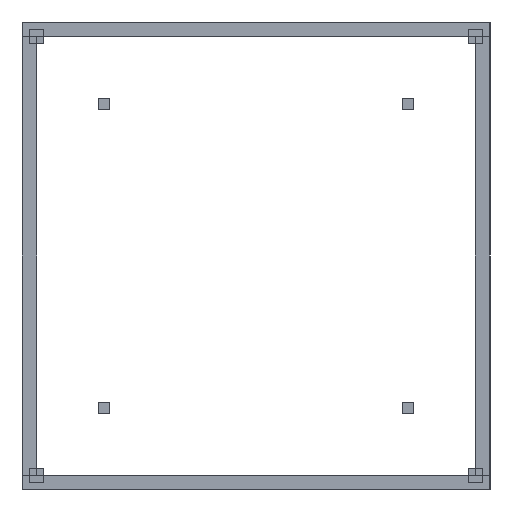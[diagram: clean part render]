
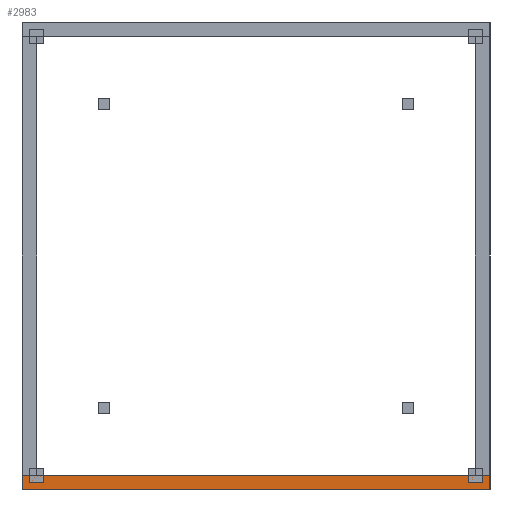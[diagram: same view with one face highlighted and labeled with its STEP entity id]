
A CAD part, left-side view. The second image highlights one B-rep face of the part: STEP entity #2983.
In plain terms, the highlighted planar face has unit normal (-1, 0, 0).
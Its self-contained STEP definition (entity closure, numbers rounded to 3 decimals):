
#2983 = ADVANCED_FACE('',(#2984),#2998,.F.);
#2984 = FACE_BOUND('',#2985,.F.);
#2985 = EDGE_LOOP('',(#2986,#3021,#3049,#3077));
#2986 = ORIENTED_EDGE('',*,*,#2987,.F.);
#2987 = EDGE_CURVE('',#2988,#2990,#2992,.T.);
#2988 = VERTEX_POINT('',#2989);
#2989 = CARTESIAN_POINT('',(-50.,-80.,-80.));
#2990 = VERTEX_POINT('',#2991);
#2991 = CARTESIAN_POINT('',(-50.,-80.,-75.));
#2992 = SURFACE_CURVE('',#2993,(#2997,#3009),.PCURVE_S1.);
#2993 = LINE('',#2994,#2995);
#2994 = CARTESIAN_POINT('',(-50.,-80.,-80.));
#2995 = VECTOR('',#2996,1.);
#2996 = DIRECTION('',(0.,0.,1.));
#2997 = PCURVE('',#2998,#3003);
#2998 = PLANE('',#2999);
#2999 = AXIS2_PLACEMENT_3D('',#3000,#3001,#3002);
#3000 = CARTESIAN_POINT('',(-50.,-80.,-80.));
#3001 = DIRECTION('',(1.,0.,0.));
#3002 = DIRECTION('',(0.,0.,1.));
#3003 = DEFINITIONAL_REPRESENTATION('',(#3004),#3008);
#3004 = LINE('',#3005,#3006);
#3005 = CARTESIAN_POINT('',(0.,0.));
#3006 = VECTOR('',#3007,1.);
#3007 = DIRECTION('',(1.,0.));
#3008 = ( GEOMETRIC_REPRESENTATION_CONTEXT(2) 
PARAMETRIC_REPRESENTATION_CONTEXT() REPRESENTATION_CONTEXT('2D SPACE',''
  ) );
#3009 = PCURVE('',#3010,#3015);
#3010 = PLANE('',#3011);
#3011 = AXIS2_PLACEMENT_3D('',#3012,#3013,#3014);
#3012 = CARTESIAN_POINT('',(-50.,-80.,-80.));
#3013 = DIRECTION('',(0.,1.,0.));
#3014 = DIRECTION('',(0.,0.,1.));
#3015 = DEFINITIONAL_REPRESENTATION('',(#3016),#3020);
#3016 = LINE('',#3017,#3018);
#3017 = CARTESIAN_POINT('',(0.,0.));
#3018 = VECTOR('',#3019,1.);
#3019 = DIRECTION('',(1.,0.));
#3020 = ( GEOMETRIC_REPRESENTATION_CONTEXT(2) 
PARAMETRIC_REPRESENTATION_CONTEXT() REPRESENTATION_CONTEXT('2D SPACE',''
  ) );
#3021 = ORIENTED_EDGE('',*,*,#3022,.T.);
#3022 = EDGE_CURVE('',#2988,#3023,#3025,.T.);
#3023 = VERTEX_POINT('',#3024);
#3024 = CARTESIAN_POINT('',(-50.,80.,-80.));
#3025 = SURFACE_CURVE('',#3026,(#3030,#3037),.PCURVE_S1.);
#3026 = LINE('',#3027,#3028);
#3027 = CARTESIAN_POINT('',(-50.,-80.,-80.));
#3028 = VECTOR('',#3029,1.);
#3029 = DIRECTION('',(0.,1.,0.));
#3030 = PCURVE('',#2998,#3031);
#3031 = DEFINITIONAL_REPRESENTATION('',(#3032),#3036);
#3032 = LINE('',#3033,#3034);
#3033 = CARTESIAN_POINT('',(0.,0.));
#3034 = VECTOR('',#3035,1.);
#3035 = DIRECTION('',(0.,-1.));
#3036 = ( GEOMETRIC_REPRESENTATION_CONTEXT(2) 
PARAMETRIC_REPRESENTATION_CONTEXT() REPRESENTATION_CONTEXT('2D SPACE',''
  ) );
#3037 = PCURVE('',#3038,#3043);
#3038 = PLANE('',#3039);
#3039 = AXIS2_PLACEMENT_3D('',#3040,#3041,#3042);
#3040 = CARTESIAN_POINT('',(-50.,-80.,-80.));
#3041 = DIRECTION('',(0.,0.,1.));
#3042 = DIRECTION('',(1.,0.,0.));
#3043 = DEFINITIONAL_REPRESENTATION('',(#3044),#3048);
#3044 = LINE('',#3045,#3046);
#3045 = CARTESIAN_POINT('',(0.,0.));
#3046 = VECTOR('',#3047,1.);
#3047 = DIRECTION('',(0.,1.));
#3048 = ( GEOMETRIC_REPRESENTATION_CONTEXT(2) 
PARAMETRIC_REPRESENTATION_CONTEXT() REPRESENTATION_CONTEXT('2D SPACE',''
  ) );
#3049 = ORIENTED_EDGE('',*,*,#3050,.T.);
#3050 = EDGE_CURVE('',#3023,#3051,#3053,.T.);
#3051 = VERTEX_POINT('',#3052);
#3052 = CARTESIAN_POINT('',(-50.,80.,-75.));
#3053 = SURFACE_CURVE('',#3054,(#3058,#3065),.PCURVE_S1.);
#3054 = LINE('',#3055,#3056);
#3055 = CARTESIAN_POINT('',(-50.,80.,-80.));
#3056 = VECTOR('',#3057,1.);
#3057 = DIRECTION('',(0.,0.,1.));
#3058 = PCURVE('',#2998,#3059);
#3059 = DEFINITIONAL_REPRESENTATION('',(#3060),#3064);
#3060 = LINE('',#3061,#3062);
#3061 = CARTESIAN_POINT('',(0.,-160.));
#3062 = VECTOR('',#3063,1.);
#3063 = DIRECTION('',(1.,0.));
#3064 = ( GEOMETRIC_REPRESENTATION_CONTEXT(2) 
PARAMETRIC_REPRESENTATION_CONTEXT() REPRESENTATION_CONTEXT('2D SPACE',''
  ) );
#3065 = PCURVE('',#3066,#3071);
#3066 = PLANE('',#3067);
#3067 = AXIS2_PLACEMENT_3D('',#3068,#3069,#3070);
#3068 = CARTESIAN_POINT('',(-50.,80.,-80.));
#3069 = DIRECTION('',(0.,1.,0.));
#3070 = DIRECTION('',(0.,0.,1.));
#3071 = DEFINITIONAL_REPRESENTATION('',(#3072),#3076);
#3072 = LINE('',#3073,#3074);
#3073 = CARTESIAN_POINT('',(0.,0.));
#3074 = VECTOR('',#3075,1.);
#3075 = DIRECTION('',(1.,0.));
#3076 = ( GEOMETRIC_REPRESENTATION_CONTEXT(2) 
PARAMETRIC_REPRESENTATION_CONTEXT() REPRESENTATION_CONTEXT('2D SPACE',''
  ) );
#3077 = ORIENTED_EDGE('',*,*,#3078,.F.);
#3078 = EDGE_CURVE('',#2990,#3051,#3079,.T.);
#3079 = SURFACE_CURVE('',#3080,(#3084,#3091),.PCURVE_S1.);
#3080 = LINE('',#3081,#3082);
#3081 = CARTESIAN_POINT('',(-50.,-80.,-75.));
#3082 = VECTOR('',#3083,1.);
#3083 = DIRECTION('',(0.,1.,0.));
#3084 = PCURVE('',#2998,#3085);
#3085 = DEFINITIONAL_REPRESENTATION('',(#3086),#3090);
#3086 = LINE('',#3087,#3088);
#3087 = CARTESIAN_POINT('',(5.,0.));
#3088 = VECTOR('',#3089,1.);
#3089 = DIRECTION('',(0.,-1.));
#3090 = ( GEOMETRIC_REPRESENTATION_CONTEXT(2) 
PARAMETRIC_REPRESENTATION_CONTEXT() REPRESENTATION_CONTEXT('2D SPACE',''
  ) );
#3091 = PCURVE('',#3092,#3097);
#3092 = PLANE('',#3093);
#3093 = AXIS2_PLACEMENT_3D('',#3094,#3095,#3096);
#3094 = CARTESIAN_POINT('',(-50.,-80.,-75.));
#3095 = DIRECTION('',(0.,0.,1.));
#3096 = DIRECTION('',(1.,0.,0.));
#3097 = DEFINITIONAL_REPRESENTATION('',(#3098),#3102);
#3098 = LINE('',#3099,#3100);
#3099 = CARTESIAN_POINT('',(0.,0.));
#3100 = VECTOR('',#3101,1.);
#3101 = DIRECTION('',(0.,1.));
#3102 = ( GEOMETRIC_REPRESENTATION_CONTEXT(2) 
PARAMETRIC_REPRESENTATION_CONTEXT() REPRESENTATION_CONTEXT('2D SPACE',''
  ) );
